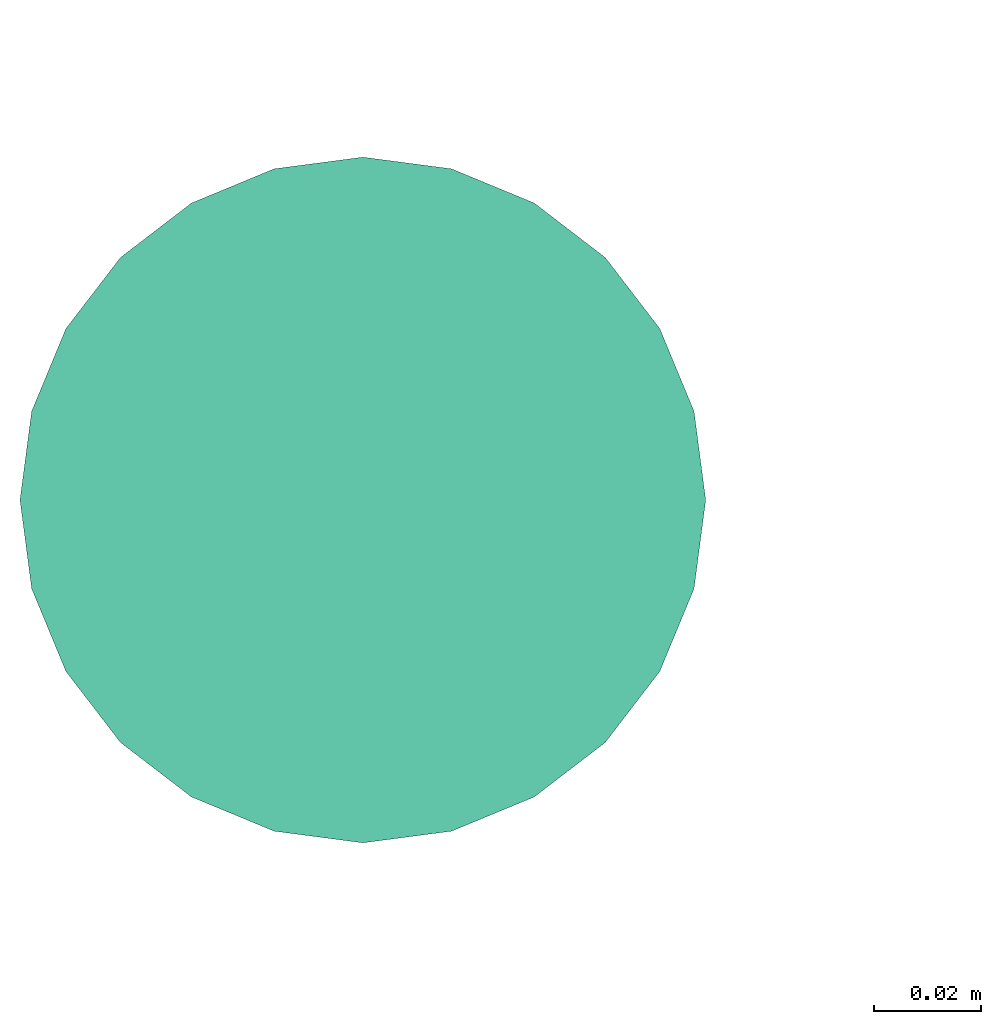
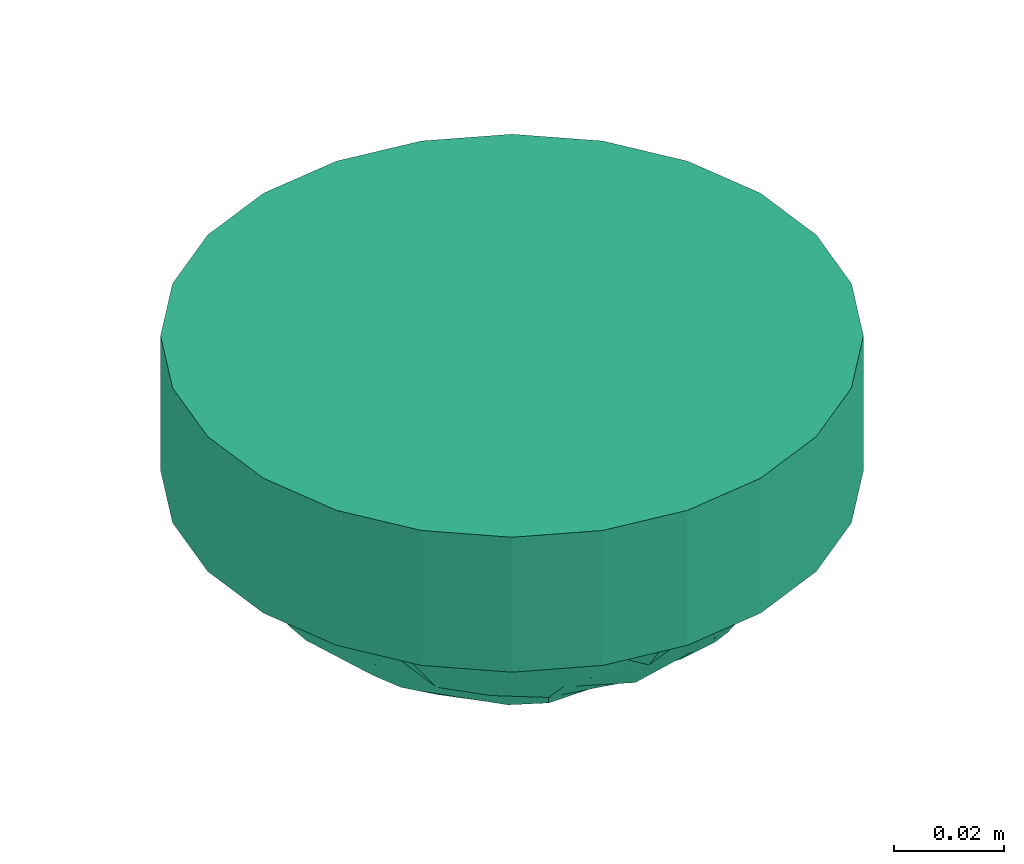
# One storey, part 27 of 153: 1 flow terminal.
"""IFC2X3 building model written with IfcOpenShell, lengths in metres."""

from ifc_helpers import new_model, entity, si_unit, converted_unit, derived_unit, direction, frame, origin, place, context, subcontext, project, spatial, faceted_brep, source, transform, mapped, type_object, type_shapes, element, save


model = new_model("IFC2X3")

# Units and contexts
model_context = context("Model", 3, precision=1e-05, world=origin(), true_north=direction((6.12303176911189e-17, 1.0)))
body_context = subcontext(model_context, "Body", "Model", "MODEL_VIEW")
ifc_project = project(units=[si_unit("LENGTHUNIT", "METRE"), si_unit("AREAUNIT", "SQUARE_METRE"), si_unit("VOLUMEUNIT", "CUBIC_METRE"), converted_unit("PLANEANGLEUNIT", "DEGREE", entity("IfcRatioMeasure", 0.0174532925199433), si_unit("PLANEANGLEUNIT", "RADIAN"), dimensions=[0, 0, 0, 0, 0, 0, 0]), si_unit("MASSUNIT", "GRAM", prefix="KILO"), derived_unit("MASSDENSITYUNIT", [(si_unit("MASSUNIT", "GRAM", prefix="KILO"), 1), (si_unit("LENGTHUNIT", "METRE"), -3)]), si_unit("TIMEUNIT", "SECOND"), si_unit("FREQUENCYUNIT", "HERTZ"), si_unit("THERMODYNAMICTEMPERATUREUNIT", "DEGREE_CELSIUS"), derived_unit("THERMALTRANSMITTANCEUNIT", [(si_unit("MASSUNIT", "GRAM", prefix="KILO"), 1), (si_unit("THERMODYNAMICTEMPERATUREUNIT", "KELVIN"), -1), (si_unit("TIMEUNIT", "SECOND"), -3)]), derived_unit("VOLUMETRICFLOWRATEUNIT", [(si_unit("LENGTHUNIT", "METRE"), 3), (si_unit("TIMEUNIT", "SECOND"), -1)]), si_unit("ELECTRICCURRENTUNIT", "AMPERE"), si_unit("ELECTRICVOLTAGEUNIT", "VOLT"), si_unit("POWERUNIT", "WATT"), si_unit("FORCEUNIT", "NEWTON"), si_unit("ILLUMINANCEUNIT", "LUX"), si_unit("LUMINOUSFLUXUNIT", "LUMEN"), si_unit("LUMINOUSINTENSITYUNIT", "CANDELA"), derived_unit("USERDEFINED", [(si_unit("MASSUNIT", "GRAM", prefix="KILO"), -1), (si_unit("LENGTHUNIT", "METRE"), -2), (si_unit("TIMEUNIT", "SECOND"), 3), (si_unit("LUMINOUSFLUXUNIT", "LUMEN"), 1)]), derived_unit("LINEARVELOCITYUNIT", [(si_unit("LENGTHUNIT", "METRE"), 1), (si_unit("TIMEUNIT", "SECOND"), -1)]), si_unit("PRESSUREUNIT", "PASCAL"), derived_unit("USERDEFINED", [(si_unit("LENGTHUNIT", "METRE"), -2), (si_unit("MASSUNIT", "GRAM", prefix="KILO"), 1), (si_unit("TIMEUNIT", "SECOND"), -2)])], contexts=[model_context])

# Site, building, storey
site_placement = place(None, origin())
site = spatial("IfcSite", under=ifc_project, at=site_placement, Name="Default", CompositionType="ELEMENT")
building_placement = place(site_placement, origin())
building = spatial("IfcBuilding", under=site, at=building_placement, CompositionType="ELEMENT")
storey_placement = place(building_placement, frame((0.0, 0.0, -4.62)))
storey = spatial("IfcBuildingStorey", under=building, at=storey_placement, Name="S02", CompositionType="ELEMENT", Elevation=-4.62)

# Flow terminal
light_fixture_type = type_object("IfcLightFixtureType", Name="Détecteur 360°", PredefinedType="NOTDEFINED")
shared_shape = source(origin(), body_context, "Body", "Brep", [
    faceted_brep([(-0.0175153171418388, 0.0435914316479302, 0.0478512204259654), (0.0, 0.034524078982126, 0.0563702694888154), (0.0, 0.0397165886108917, 0.0531256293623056), (0.0, -0.00603476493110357, 0.0659648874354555), (0.0, 0.0, 0.0669999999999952), (-0.0194029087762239, 0.000878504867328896, 0.0644483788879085), (-0.0269980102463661, 0.0195753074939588, 0.0584711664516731), (-0.0366619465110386, 0.0127227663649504, 0.0549213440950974), (-0.0174057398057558, 0.0159851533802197, 0.0630502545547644), (-0.0276843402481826, 0.0401006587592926, 0.0459804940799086), (-0.0359767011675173, 0.0348394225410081, 0.0444249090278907), (-0.0202403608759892, 0.0335607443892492, 0.054639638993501), (-0.0256912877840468, 0.0533485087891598, 0.0299999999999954), (-0.0172617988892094, 0.0486391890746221, 0.042533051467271), (-0.0133088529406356, 0.0517577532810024, 0.0400582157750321), (-0.0462941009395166, 0.0369183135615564, 0.0299999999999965), (-0.0186245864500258, 0.0267295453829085, 0.0589100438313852), (0.0, 0.0241390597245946, 0.0628595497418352), (-0.0139070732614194, 0.0374370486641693, 0.0540817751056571), (0.0, -0.0397165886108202, 0.0531256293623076), (-0.0172618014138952, -0.0486391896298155, 0.0425330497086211), (0.0, -0.0449090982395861, 0.049880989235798), (-0.0353547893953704, -0.0284533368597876, 0.0494330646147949), (-0.0202403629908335, -0.0335607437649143, 0.054639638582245), (-0.0186245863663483, -0.0267295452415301, 0.0589100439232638), (-0.0191783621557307, -0.0150189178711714, 0.0627751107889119), (-0.0249385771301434, -0.0204731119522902, 0.0590841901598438), (0.0, -0.0120695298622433, 0.0649297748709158), (-0.0453471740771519, 0.0286501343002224, 0.0397747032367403), (-0.052010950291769, 0.0250471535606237, 0.029999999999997), (-0.0465404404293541, 0.0196510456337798, 0.0438984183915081), (-0.0365036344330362, 0.0226255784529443, 0.0516441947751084), (-0.0276843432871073, -0.0401006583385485, 0.0459804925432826), (-0.0359926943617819, -0.0451334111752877, 0.0299999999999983), (-0.0175153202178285, -0.0435914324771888, 0.0478512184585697), (0.0, 0.049890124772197, 0.0429575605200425), (0.0, 0.0545512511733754, 0.0364787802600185), (0.0, 0.0592123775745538, 0.0299999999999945), (-0.00849704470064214, 0.0572729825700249, 0.0299999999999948), (-0.0169940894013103, 0.055333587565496, 0.0299999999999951), (-0.035976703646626, -0.0348394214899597, 0.0444249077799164), (-0.0308419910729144, -0.0492409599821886, 0.0299999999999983), (-0.025691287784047, -0.0533485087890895, 0.0299999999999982), (-0.0130265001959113, -0.0514867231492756, 0.040526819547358), (0.0, -0.0498901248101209, 0.0429575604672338), (-0.0169940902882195, -0.0553335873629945, 0.029999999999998), (-0.0353547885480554, 0.0284533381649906, 0.0494330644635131), (0.0, -0.0181042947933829, 0.0638946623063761), (-0.036659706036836, 0.00328672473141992, 0.0563153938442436), (-0.0485435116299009, 0.009089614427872, 0.0452357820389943), (-0.0473669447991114, 0.00128092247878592, 0.0474310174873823), (0.0, 0.00603476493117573, 0.0659648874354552), (-0.0226425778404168, 0.0107553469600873, 0.0624973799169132), (-0.0139070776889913, -0.0374370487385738, 0.0540817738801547), (0.0, -0.0293315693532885, 0.0596149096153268), (-0.0453471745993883, -0.0286501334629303, 0.0397747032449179), (-0.0449600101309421, -0.018422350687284, 0.0461366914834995), (-0.0577277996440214, -0.0131759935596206, 0.0299999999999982), (-0.0476906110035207, -0.00670602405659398, 0.0466053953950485), (0.0, 0.0449090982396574, 0.0498809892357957), (-0.0308419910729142, 0.049240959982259, 0.0299999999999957), (-0.0359926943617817, 0.0451334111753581, 0.029999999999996), (0.0, -0.0345240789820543, 0.0563702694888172), (-0.0462941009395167, -0.0369183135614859, 0.0299999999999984), (-0.0411433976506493, -0.0410258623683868, 0.0299999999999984), (-0.0491525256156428, 0.03098273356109, 0.0299999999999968), (-0.0577277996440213, 0.0131759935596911, 0.0299999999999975), (0.0, 0.018104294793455, 0.0638946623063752), (-0.0377433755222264, -0.00448382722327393, 0.0554913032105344), (-0.0577277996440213, 0.00658799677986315, 0.0299999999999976), (-0.0577277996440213, -0.00658799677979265, 0.029999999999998), (-0.0577277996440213, 0.0, 0.0299999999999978), (-0.0385149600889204, -0.012484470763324, 0.0536578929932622), (-0.0491525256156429, -0.0309827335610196, 0.0299999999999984), (-0.0548693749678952, -0.0191115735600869, 0.0299999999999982), (0.0, -0.0241390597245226, 0.0628595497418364), (-0.0146256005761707, -0.0100436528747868, 0.0649170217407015), (-0.0271766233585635, -0.00920278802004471, 0.0609170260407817), (0.0, 0.0120695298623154, 0.0649297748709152), (-0.0520109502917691, -0.0250471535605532, 0.0299999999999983), (-0.0411433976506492, 0.0410258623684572, 0.0299999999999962), (-0.0548693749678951, 0.0191115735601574, 0.0299999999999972), (0.0, 0.0293315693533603, 0.0596149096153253), (-0.0127455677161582, -0.0563032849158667, 0.0299999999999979), (-0.00849704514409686, -0.057272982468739, 0.0299999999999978), (0.0, -0.0592123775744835, 0.0299999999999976), (0.0, -0.0545512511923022, 0.0364787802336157), (-0.0213426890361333, -0.054341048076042, 0.0299999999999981), (0.0175153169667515, -0.0435914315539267, 0.0478512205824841), (0.0194029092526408, -0.000878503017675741, 0.0644483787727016), (0.0269980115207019, -0.0195753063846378, 0.0584711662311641), (0.0366619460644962, -0.012722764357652, 0.0549213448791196), (0.0174057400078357, -0.0159851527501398, 0.0630502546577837), (0.0276843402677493, -0.0401006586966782, 0.0459804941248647), (0.0359767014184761, -0.0348394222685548, 0.0444249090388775), (0.0202403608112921, -0.0335607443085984, 0.0546396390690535), (0.0256912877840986, -0.0533485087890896, 0.0299999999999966), (0.0172617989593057, -0.0486391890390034, 0.0425330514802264), (0.0133088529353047, -0.0517577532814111, 0.0400582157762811), (0.0462941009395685, -0.0369183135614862, 0.0299999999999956), (0.00849704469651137, -0.0572729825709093, 0.0299999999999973), (0.0169940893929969, -0.0553335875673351, 0.029999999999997), (0.0308419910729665, 0.0492409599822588, 0.0299999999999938), (0.025691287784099, 0.0533485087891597, 0.0299999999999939), (0.0172617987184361, 0.0486391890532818, 0.0425330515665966), (0.0175153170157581, 0.0435914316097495, 0.0478512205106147), (0.0353547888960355, 0.0284533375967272, 0.0494330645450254), (0.0202403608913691, 0.03356074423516, 0.0546396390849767), (0.0186245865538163, 0.0267295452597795, 0.0589100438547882), (0.0191783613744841, 0.0150189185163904, 0.0627751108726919), (0.0249385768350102, 0.0204731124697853, 0.0590841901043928), (0.0520109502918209, -0.0250471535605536, 0.0299999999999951), (0.0548693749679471, -0.0191115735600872, 0.0299999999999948), (0.0577277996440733, -0.0131759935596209, 0.0299999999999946), (0.0465404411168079, -0.0196510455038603, 0.0438984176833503), (0.018624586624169, -0.0267295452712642, 0.0589100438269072), (0.0365036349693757, -0.0226255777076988, 0.0516441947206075), (0.0276843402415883, 0.0401006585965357, 0.0459804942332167), (0.0359926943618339, 0.0451334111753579, 0.0299999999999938), (0.0139070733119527, -0.0374370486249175, 0.0540817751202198), (0.0359767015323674, 0.0348394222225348, 0.044424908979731), (0.0226425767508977, -0.0107553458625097, 0.0624973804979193), (0.0130264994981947, 0.0514867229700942, 0.0405268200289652), (0.0169940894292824, 0.0553335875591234, 0.0299999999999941), (0.0353547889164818, -0.0284533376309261, 0.0494330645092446), (0.0453471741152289, -0.0286501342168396, 0.039774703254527), (0.0366597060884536, -0.00328672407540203, 0.0563153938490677), (0.0485435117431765, -0.00908961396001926, 0.0452357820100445), (0.0473669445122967, -0.00128092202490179, 0.0474310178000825), (0.0139070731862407, 0.0374370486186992, 0.0540817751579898), (0.0453471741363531, 0.0286501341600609, 0.039774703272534), (0.0449600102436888, 0.018422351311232, 0.0461366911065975), (0.0577277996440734, 0.0131759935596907, 0.0299999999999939), (0.0476906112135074, 0.00670602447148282, 0.0466053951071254), (0.0308419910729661, -0.0492409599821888, 0.0299999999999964), (0.0359926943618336, -0.0451334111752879, 0.0299999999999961), (0.0462941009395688, 0.0369183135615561, 0.0299999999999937), (0.0411433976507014, 0.041025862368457, 0.0299999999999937), (0.0491525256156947, -0.0309827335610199, 0.0299999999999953), (0.0377433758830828, 0.00448382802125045, 0.0554913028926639), (0.0577277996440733, -0.00658799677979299, 0.0299999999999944), (0.0577277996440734, 0.00658799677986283, 0.0299999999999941), (0.0577277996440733, 0.0, 0.0299999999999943), (0.0385149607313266, 0.0124844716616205, 0.0536578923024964), (0.049152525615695, 0.0309827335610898, 0.0299999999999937), (0.0548693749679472, 0.0191115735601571, 0.0299999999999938), (0.0146256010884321, 0.0100436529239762, 0.0649170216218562), (0.0271766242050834, 0.00920278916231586, 0.0609170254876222), (0.0520109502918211, 0.0250471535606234, 0.0299999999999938), (0.041143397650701, -0.0410258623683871, 0.0299999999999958), (0.0127455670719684, 0.056303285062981, 0.0299999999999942), (0.0084970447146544, 0.0572729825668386, 0.0299999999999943), (0.0213426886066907, 0.0543410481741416, 0.029999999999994), (0.0, 0.0, 0.0299999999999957)], [[[0, 1, 2]], [[3, 4, 5]], [[6, 7, 8]], [[9, 10, 11]], [[12, 13, 14]], [[9, 15, 10]], [[16, 17, 11]], [[9, 11, 18]], [[19, 20, 21]], [[22, 23, 24]], [[25, 26, 27]], [[28, 29, 30]], [[16, 31, 6]], [[32, 33, 34]], [[35, 36, 37, 38, 39]], [[22, 40, 23]], [[41, 42, 20]], [[20, 43, 21]], [[44, 43, 45]], [[19, 34, 20]], [[46, 10, 28]], [[47, 26, 24]], [[48, 49, 50]], [[51, 52, 5]], [[23, 53, 54]], [[55, 22, 56]], [[57, 56, 58]], [[2, 59, 13]], [[0, 2, 13]], [[13, 60, 0]], [[1, 0, 18]], [[61, 9, 0]], [[19, 62, 34]], [[33, 41, 34]], [[63, 64, 33, 32]], [[34, 41, 20]], [[32, 34, 53]], [[31, 28, 30]], [[15, 65, 10]], [[30, 66, 49]], [[67, 16, 6]], [[52, 8, 7]], [[7, 31, 30]], [[68, 50, 58]], [[48, 50, 68]], [[49, 69, 50]], [[70, 57, 58, 71]], [[52, 48, 5]], [[22, 26, 56]], [[68, 58, 72]], [[72, 56, 26]], [[73, 40, 55]], [[56, 74, 55]], [[24, 75, 47]], [[5, 4, 51]], [[49, 48, 7]], [[5, 76, 3]], [[77, 5, 68]], [[51, 78, 52]], [[47, 27, 26]], [[25, 27, 76]], [[75, 24, 23]], [[22, 24, 26]], [[53, 62, 54]], [[40, 32, 23]], [[32, 40, 63]], [[73, 63, 40]], [[79, 73, 55, 74]], [[26, 25, 72]], [[22, 55, 40]], [[54, 75, 23]], [[17, 16, 67]], [[67, 8, 78]], [[11, 10, 46]], [[16, 11, 46]], [[52, 7, 48]], [[65, 29, 28]], [[9, 61, 80, 15]], [[81, 66, 30, 29]], [[65, 28, 10]], [[31, 46, 28]], [[1, 18, 82]], [[11, 17, 82]], [[49, 7, 30]], [[35, 39, 14]], [[14, 13, 59]], [[83, 84, 85, 86, 44, 45]], [[20, 42, 43]], [[43, 42, 87, 45]], [[62, 53, 34]], [[32, 53, 23]], [[82, 18, 11]], [[9, 18, 0]], [[12, 14, 39]], [[14, 59, 35]], [[61, 0, 60]], [[13, 12, 60]], [[46, 31, 16]], [[6, 31, 7]], [[69, 71, 50]], [[49, 66, 69]], [[58, 50, 71]], [[48, 68, 5]], [[77, 68, 72]], [[25, 77, 72]], [[72, 58, 56]], [[56, 57, 74]], [[77, 25, 76]], [[77, 76, 5]], [[3, 76, 27]], [[6, 8, 67]], [[8, 52, 78]], [[21, 43, 44]], [[88, 62, 19]], [[51, 4, 89]], [[90, 91, 92]], [[93, 94, 95]], [[96, 97, 98]], [[93, 99, 94]], [[44, 86, 85, 100, 101]], [[102, 103, 104]], [[2, 105, 104]], [[106, 107, 108]], [[109, 110, 78]], [[111, 112, 113, 114]], [[115, 116, 90]], [[117, 118, 105]], [[93, 95, 119]], [[106, 120, 107]], [[3, 121, 89]], [[35, 122, 123]], [[104, 122, 59]], [[115, 75, 95]], [[124, 94, 125]], [[67, 110, 108]], [[126, 127, 128]], [[2, 104, 59]], [[107, 129, 82]], [[130, 106, 131]], [[132, 131, 133]], [[19, 21, 97]], [[88, 19, 97]], [[97, 134, 88]], [[62, 88, 119]], [[135, 93, 88]], [[2, 1, 105]], [[118, 102, 105]], [[136, 137, 118, 117]], [[105, 102, 104]], [[117, 105, 129]], [[116, 125, 114]], [[99, 138, 94]], [[114, 113, 127]], [[47, 115, 90]], [[27, 92, 121]], [[91, 116, 114]], [[139, 128, 133]], [[126, 128, 139]], [[127, 140, 128]], [[141, 132, 133, 142]], [[121, 126, 89]], [[106, 110, 131]], [[139, 133, 143]], [[143, 131, 110]], [[144, 120, 130]], [[131, 145, 130]], [[108, 17, 67]], [[89, 4, 3]], [[127, 126, 91]], [[89, 146, 51]], [[147, 89, 139]], [[3, 27, 121]], [[67, 78, 110]], [[109, 78, 146]], [[17, 108, 107]], [[106, 108, 110]], [[129, 1, 82]], [[120, 117, 107]], [[117, 120, 136]], [[144, 136, 120]], [[148, 144, 130, 145]], [[110, 109, 143]], [[106, 130, 120]], [[82, 17, 107]], [[75, 115, 47]], [[47, 92, 27]], [[95, 94, 124]], [[115, 95, 124]], [[121, 91, 126]], [[138, 111, 125]], [[93, 135, 149, 99]], [[125, 111, 114]], [[138, 125, 94]], [[116, 124, 125]], [[62, 119, 54]], [[95, 75, 54]], [[127, 91, 114]], [[44, 101, 98]], [[98, 97, 21]], [[150, 151, 37, 36, 35, 123]], [[104, 103, 122]], [[122, 103, 152, 123]], [[1, 129, 105]], [[117, 129, 107]], [[54, 119, 95]], [[93, 119, 88]], [[96, 98, 101]], [[98, 21, 44]], [[135, 88, 134]], [[97, 96, 134]], [[124, 116, 115]], [[90, 116, 91]], [[140, 142, 128]], [[127, 113, 140]], [[133, 128, 142]], [[126, 139, 89]], [[147, 139, 143]], [[109, 147, 143]], [[143, 133, 131]], [[131, 132, 145]], [[147, 109, 146]], [[147, 146, 89]], [[51, 146, 78]], [[121, 92, 91]], [[90, 92, 47]], [[59, 122, 35]], [[153, 42, 41]], [[153, 41, 33]], [[153, 33, 64]], [[153, 64, 63]], [[153, 63, 73]], [[153, 73, 79]], [[153, 79, 74]], [[153, 74, 57]], [[153, 57, 70]], [[153, 87, 42]], [[153, 45, 87]], [[153, 83, 45]], [[153, 84, 83]], [[153, 85, 84]], [[153, 70, 71]], [[153, 71, 69]], [[153, 69, 66]], [[153, 66, 81]], [[153, 81, 29]], [[153, 29, 65]], [[153, 65, 15]], [[153, 15, 80]], [[153, 80, 61]], [[153, 61, 60]], [[153, 60, 12]], [[153, 12, 39]], [[153, 39, 38]], [[153, 38, 37]], [[153, 37, 151]], [[153, 100, 85]], [[153, 101, 100]], [[153, 96, 101]], [[153, 134, 96]], [[153, 135, 134]], [[153, 149, 135]], [[153, 99, 149]], [[153, 138, 99]], [[153, 111, 138]], [[153, 112, 111]], [[153, 113, 112]], [[153, 151, 150]], [[153, 150, 123]], [[153, 123, 152]], [[153, 152, 103]], [[153, 103, 102]], [[153, 102, 118]], [[153, 118, 137]], [[153, 137, 136]], [[153, 136, 144]], [[153, 144, 148]], [[153, 148, 145]], [[153, 145, 132]], [[153, 132, 141]], [[153, 141, 142]], [[153, 142, 140]], [[153, 140, 113]]]),
    faceted_brep([(0.0452548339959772, 0.0452548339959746, 0.0299999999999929), (0.0320000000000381, 0.0554256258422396, 0.0299999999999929), (0.0165644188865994, 0.0618192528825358, 0.029999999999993), (0.0, 0.0640000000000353, 0.0299999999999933), (-0.0165644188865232, 0.0618192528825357, 0.0299999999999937), (-0.0319999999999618, 0.0554256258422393, 0.0299999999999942), (-0.0452548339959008, 0.0452548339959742, 0.0299999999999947), (-0.0554256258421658, 0.0320000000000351, 0.0299999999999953), (-0.061819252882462, 0.0165644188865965, 0.0299999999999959), (-0.0639999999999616, 0.0, 0.0299999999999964), (-0.0618192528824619, -0.0165644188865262, 0.0299999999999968), (-0.0554256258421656, -0.0319999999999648, 0.0299999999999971), (-0.0452548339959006, -0.0452548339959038, 0.0299999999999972), (-0.0319999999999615, -0.0554256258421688, 0.0299999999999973), (-0.0165644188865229, -0.061819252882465, 0.0299999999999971), (0.0, -0.0639999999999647, 0.0299999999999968), (0.0165644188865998, -0.061819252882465, 0.0299999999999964), (0.0320000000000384, -0.0554256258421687, 0.0299999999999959), (0.0452548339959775, -0.0452548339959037, 0.0299999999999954), (0.0554256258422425, -0.0319999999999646, 0.0299999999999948), (0.0618192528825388, -0.016564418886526, 0.0299999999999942), (0.0640000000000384, 0.0, 0.0299999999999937), (0.0618192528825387, 0.016564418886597, 0.0299999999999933), (0.0554256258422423, 0.0320000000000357, 0.029999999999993), (0.0, -0.0639999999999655, 0.0), (-0.0165644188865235, -0.0618192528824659, 0.0), (-0.0319999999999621, -0.0554256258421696, 0.0), (-0.0452548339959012, -0.0452548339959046, 0.0), (-0.0554256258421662, -0.0319999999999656, 0.0), (-0.0618192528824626, -0.016564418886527, 0.0), (-0.0639999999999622, 0.0, 0.0), (-0.0618192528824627, 0.0165644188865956, 0.0), (-0.0554256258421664, 0.0320000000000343, 0.0), (-0.0452548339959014, 0.0452548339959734, 0.0), (-0.0319999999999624, 0.0554256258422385, 0.0), (-0.0165644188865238, 0.0618192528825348, 0.0), (0.0, 0.0640000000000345, 0.0), (0.0165644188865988, 0.061819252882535, 0.0), (0.0320000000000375, 0.0554256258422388, 0.0), (0.0452548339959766, 0.0452548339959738, 0.0), (0.0554256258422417, 0.0320000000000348, 0.0), (0.061819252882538, 0.0165644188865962, 0.0), (0.0640000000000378, 0.0, 0.0), (0.0618192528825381, -0.0165644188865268, 0.0), (0.0554256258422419, -0.0319999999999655, 0.0), (0.0452548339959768, -0.0452548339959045, 0.0), (0.0320000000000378, -0.0554256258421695, 0.0), (0.0165644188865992, -0.0618192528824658, 0.0)], [[[0, 1, 2, 3, 4, 5, 6, 7, 8, 9, 10, 11, 12, 13, 14, 15, 16, 17, 18, 19, 20, 21, 22, 23]], [[24, 25, 26, 27, 28, 29, 30, 31, 32, 33, 34, 35, 36, 37, 38, 39, 40, 41, 42, 43, 44, 45, 46, 47]], [[30, 9, 8, 31]], [[31, 8, 7, 32]], [[34, 33, 6, 5]], [[6, 33, 32, 7]], [[35, 34, 5, 4]], [[35, 4, 3, 36]], [[36, 3, 2, 37]], [[37, 2, 1, 38]], [[40, 39, 0, 23]], [[0, 39, 38, 1]], [[41, 40, 23, 22]], [[41, 22, 21, 42]], [[42, 21, 20, 43]], [[43, 20, 19, 44]], [[46, 45, 18, 17]], [[18, 45, 44, 19]], [[47, 46, 17, 16]], [[47, 16, 15, 24]], [[24, 15, 14, 25]], [[25, 14, 13, 26]], [[10, 9, 30, 29]], [[26, 13, 12, 27]], [[12, 11, 28, 27]], [[11, 10, 29, 28]]]),
])
type_shapes(light_fixture_type, [shared_shape])
flow_terminal_placement = place(storey_placement, frame((25.4897436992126, -194.663822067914, 4.62), z_axis=(0.0, 0.0, -1.0), x_axis=(1.0, 0.0, 0.0)))
element("IfcFlowTerminal", 1, at=flow_terminal_placement, inside=storey, type_object=light_fixture_type, Name="INT - Détecteur 360°:Détecteur 360°", ObjectType="INT - Détecteur 360°:Détecteur 360°", context=body_context, shape_type="MappedRepresentation", body=[
    mapped(shared_shape, transform((0.0, 0.0, 0.0), scale=1.0)),
])

save(model, "model.ifc")
